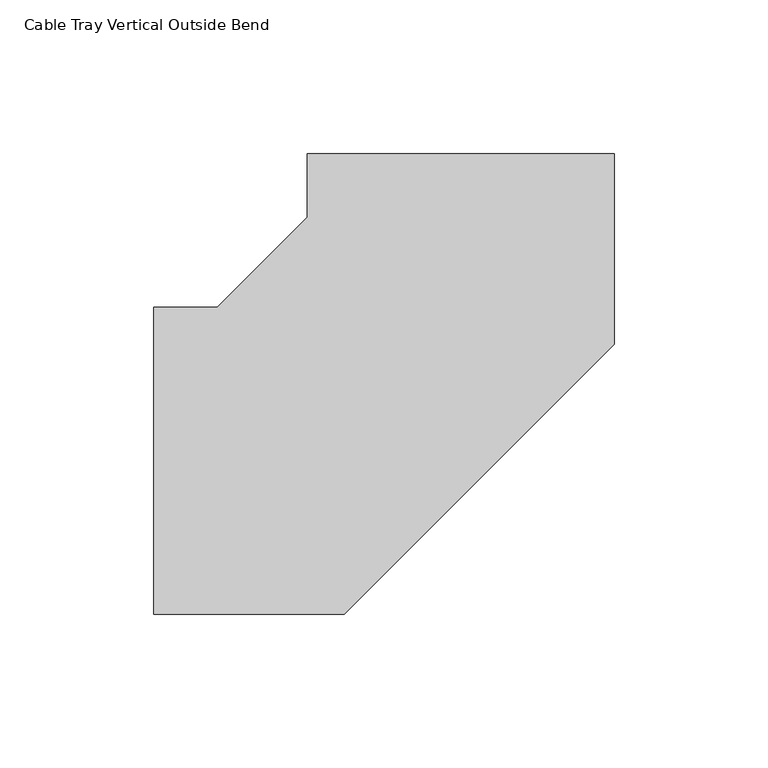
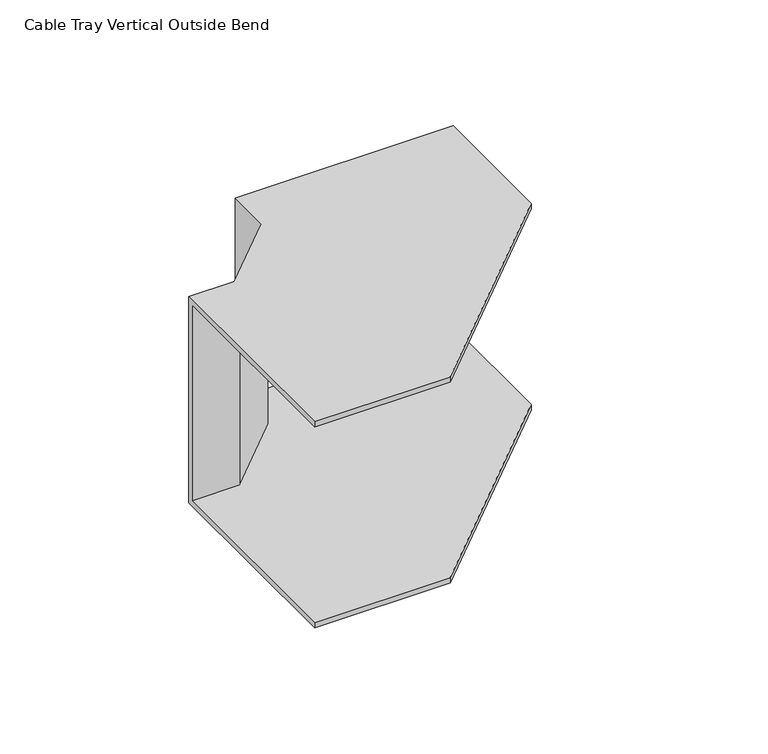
"""IFC4 building model written with IfcOpenShell, lengths in millimetres: cable carrier fitting geometry, Cable Tray Vertical Outside Bend : ELEC_ELV_TKG_N2402."""

from ifc_helpers import new_model, si_unit, origin, place, context, project, spatial, faceted_brep, source, transform, mapped, element, save


def cable_tray_vertical_outside_bend_f7a50404(model_context):
    return source(origin(), model_context, "Body", "Brep", [
        faceted_brep([(-100.001568, -50.0, 50.0), (-100.001568, 50.0, 50.0), (-100.001568, 50.0, -50.0), (-100.001568, -50.0, -50.0), (-100.001568, -50.0, -47.46), (-100.001568, 47.46, -47.46), (-100.001568, 47.46, 47.46), (-100.001568, -50.0, 47.46), (49.9984319, 100.002352, 50.0), (49.9984319, 100.002352, 47.46), (-47.4615681, 100.0008238, 47.46), (-47.4615681, 100.0008238, -47.46), (49.9984319, 100.002352, -47.46), (49.9984319, 100.002352, -50.0), (-50.001568, 100.000784, -50.0), (-50.001568, 100.000784, 50.0), (-37.8688448, -50.0, 50.0), (49.9994062, 37.8696288, 50.0), (-50.0012433, 79.2898763, 50.0), (-79.2906603, 50.0, 50.0), (-79.2906603, 50.0, -50.0), (-50.0012433, 79.2898763, -50.0), (49.9994062, 37.8696288, -50.0), (-37.8688448, -50.0, -50.0), (-37.8688448, -50.0, -47.46), (49.9994062, 37.8696288, -47.46), (-47.4612268, 78.237802, -47.46), (-78.2385462, 47.46, -47.46), (-78.2385462, 47.46, 47.46), (-47.4612268, 78.237802, 47.46), (49.9994062, 37.8696288, 47.46), (-37.8688448, -50.0, 47.46)], [[[0, 1, 2, 3, 4, 5, 6, 7]], [[8, 9, 10, 11, 12, 13, 14, 15]], [[1, 0, 16, 17, 8, 15, 18, 19]], [[2, 1, 19, 20]], [[3, 2, 20, 21, 14, 13, 22, 23]], [[4, 3, 23, 24]], [[5, 4, 24, 25, 12, 11, 26, 27]], [[6, 5, 27, 28]], [[7, 6, 28, 29, 10, 9, 30, 31]], [[0, 7, 31, 16]], [[20, 19, 18, 21]], [[24, 23, 22, 25]], [[28, 27, 26, 29]], [[16, 31, 30, 17]], [[21, 18, 15, 14]], [[25, 22, 13, 12]], [[29, 26, 11, 10]], [[17, 30, 9, 8]]]),
    ])


if __name__ == "__main__":
    model = new_model("IFC4")
    model_context = context("Model", 3, world=origin())
    ifc_project = project(units=[si_unit("LENGTHUNIT", "METRE", prefix="MILLI")], contexts=[model_context])
    site = spatial("IfcSite", under=ifc_project)
    building = spatial("IfcBuilding", under=site)
    placement = place(None, origin())
    cable_tray_vertical_outside_bend_shape = cable_tray_vertical_outside_bend_f7a50404(model_context)
    element("IfcCableCarrierFitting", 1, ObjectType="Cable Tray Vertical Outside Bend : ELEC_ELV_TKG_N2402", at=placement, inside=building, context=model_context, shape_type="MappedRepresentation", body=[
        mapped(cable_tray_vertical_outside_bend_shape, transform((0.0, 0.0, 0.0), x_axis=(1.0, 0.0, 0.0), y_axis=(0.0, 1.0, 0.0), z_axis=(0.0, 0.0, 1.0))),
    ])
    save(model, "model.ifc")
